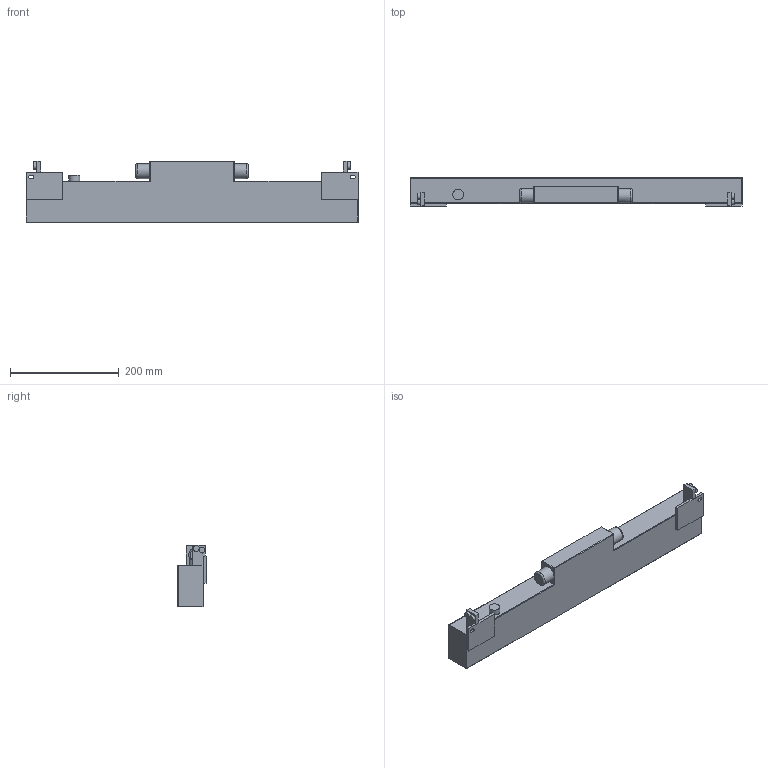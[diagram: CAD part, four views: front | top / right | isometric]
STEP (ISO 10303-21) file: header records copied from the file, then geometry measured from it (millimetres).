
FILE_DESCRIPTION(/* description */ ('Unknown'),/* implementation_level */ '2;1');
FILE_NAME(/* name */ 'EMINERE Remote 2 MC',/* time_stamp */ '2024-06-19T09:52:59+02:00',/* author */ ('Unknown'),/* organization */ ('Unknown'),/* preprocessor_version */ 'ST-DEVELOPER v19.4',/* originating_system */ 'Solid Edge',/* authorisation */ 'Unknown');
FILE_SCHEMA (('AUTOMOTIVE_DESIGN {1 0 10303 214 3 1 1}'));
Length unit declared in the file: millimetre
Products named in the file (1): EMINERE Remote 2 MC
Bounding box: 609.6 x 52.4 x 113 mm (x, y, z)
Volume: 2457703.6 mm3; surface area: 186579.4 mm2
Topology: 1 solids, 1 shells, 88 faces, 221 edges, 134 vertices
Faces by surface type: plane 47, cylinder 29, torus 10, sphere 2
Full cylindrical faces by diameter (mm): 11 x4, 20 x1, 27 x2
Entity records: 2548 total; most frequent: DIRECTION 452, CARTESIAN_POINT 425, ORIENTED_EDGE 412, EDGE_CURVE 206, AXIS2_PLACEMENT_3D 157, LINE 138, VECTOR 138, VERTEX_POINT 130
